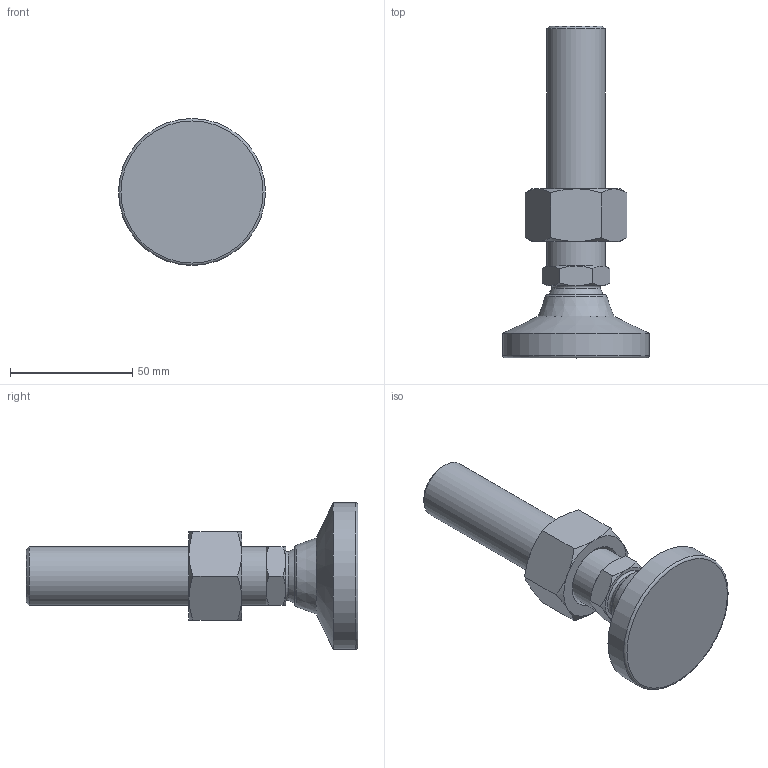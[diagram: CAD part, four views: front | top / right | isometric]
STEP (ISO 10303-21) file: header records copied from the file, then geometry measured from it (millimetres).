
FILE_DESCRIPTION( ( 'STEP AP214' ), ' ' );
FILE_NAME( 'O:/ganter_2015/teil_2/2_5/gn343_2/gn343_2_ks/Levelling foot with threaded stud GN 343.2-60-M24-98-KS-(0).stp', '2015-10-26T09:11:52', ( '' ), ( '' ), ' ', 'PARTsolutions', ' ' );
FILE_SCHEMA( ( 'AUTOMOTIVE_DESIGN { 1 0 10303 214 1 1 1 1 }' ) );
Length unit declared in the file: millimetre
Products named in the file (4): Levelling foot with threaded stud GN 343.2-60-M24-98-KS-(0); _Levelling foot with threaded stud GN 343.2-60-M24-98-KS-(0)_foot; _Gelenkfuss mit Schraube GN 343.2-60-M24-98-KS-(0)_screw; _GLevelling foot with threaded stud GN 343.2-60-M24-98-KS-(0)_nut
Assembly tree (3 placements, depth 2):
  Levelling foot with threaded stud GN 343.2-60-M24-98-KS-(0)
    _Levelling foot with threaded stud GN 343.2-60-M24-98-KS-(0)_foot
    _Gelenkfuss mit Schraube GN 343.2-60-M24-98-KS-(0)_screw
    _GLevelling foot with threaded stud GN 343.2-60-M24-98-KS-(0)_nut
Bounding box: 60 x 135.5 x 60 mm (x, y, z)
Volume: 111323.2 mm3; surface area: 24390.4 mm2
Topology: 3 solids, 3 shells, 55 faces, 116 edges, 67 vertices
Faces by surface type: cone 29, plane 18, torus 3, cylinder 3, sphere 2
Full cylindrical faces by diameter (mm): 20.752 x1, 24 x1, 60 x1
Entity records: 2078 total; most frequent: CARTESIAN_POINT 535, DIRECTION 208, ORIENTED_EDGE 198, EDGE_CURVE 99, AXIS2_PLACEMENT_3D 98, EDGE_LOOP 70, VERTEX_POINT 65, FACE_OUTER_BOUND 61
